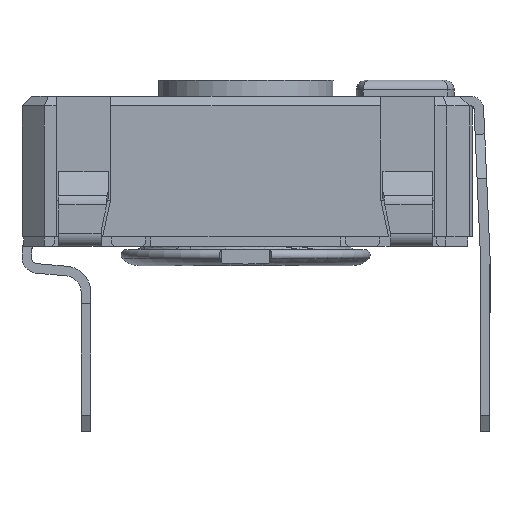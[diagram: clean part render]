
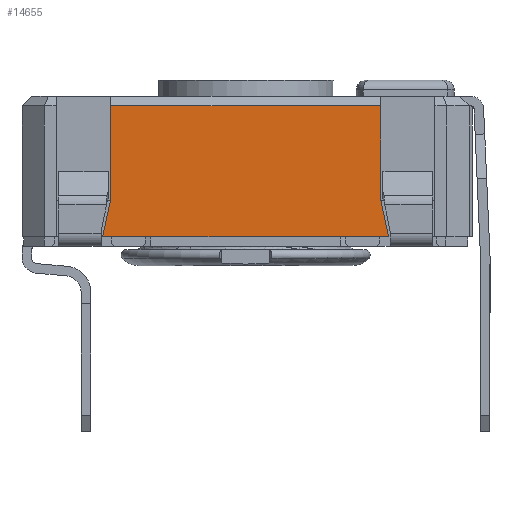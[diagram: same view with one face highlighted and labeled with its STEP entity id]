
A CAD part, left-side view. The second image highlights one B-rep face of the part: STEP entity #14655.
In plain terms, the highlighted planar face has unit normal (-1, 0, 0).
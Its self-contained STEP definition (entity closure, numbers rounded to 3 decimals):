
#1324=FACE_OUTER_BOUND('',#2079,.T.);
#2079=EDGE_LOOP('',(#12445,#12446,#12447,#12448,#12449,#12450));
#2963=LINE('',#22089,#4559);
#3295=LINE('',#23102,#4891);
#3299=LINE('',#23109,#4895);
#3656=LINE('',#23874,#5252);
#3661=LINE('',#23882,#5257);
#3662=LINE('',#23884,#5258);
#4559=VECTOR('',#17819,10.);
#4891=VECTOR('',#18585,10.);
#4895=VECTOR('',#18591,10.);
#5252=VECTOR('',#19336,10.);
#5257=VECTOR('',#19343,10.);
#5258=VECTOR('',#19346,10.);
#6078=VERTEX_POINT('',#22086);
#6079=VERTEX_POINT('',#22088);
#6402=VERTEX_POINT('',#23099);
#6403=VERTEX_POINT('',#23101);
#6405=VERTEX_POINT('',#23107);
#6605=VERTEX_POINT('',#23880);
#7743=EDGE_CURVE('',#6078,#6079,#2963,.T.);
#8187=EDGE_CURVE('',#6402,#6403,#3295,.T.);
#8191=EDGE_CURVE('',#6402,#6405,#3299,.T.);
#8572=EDGE_CURVE('',#6079,#6405,#3656,.T.);
#8577=EDGE_CURVE('',#6605,#6078,#3661,.T.);
#8578=EDGE_CURVE('',#6605,#6403,#3662,.T.);
#12445=ORIENTED_EDGE('',*,*,#8187,.F.);
#12446=ORIENTED_EDGE('',*,*,#8191,.T.);
#12447=ORIENTED_EDGE('',*,*,#8572,.F.);
#12448=ORIENTED_EDGE('',*,*,#7743,.F.);
#12449=ORIENTED_EDGE('',*,*,#8577,.F.);
#12450=ORIENTED_EDGE('',*,*,#8578,.T.);
#13229=PLANE('',#15748);
#14655=ADVANCED_FACE('',(#1324),#13229,.T.);
#15748=AXIS2_PLACEMENT_3D('',#23918,#19392,#19393);
#17819=DIRECTION('',(0.,1.,0.));
#18585=DIRECTION('',(0.,-1.,0.));
#18591=DIRECTION('',(0.,0.,-1.));
#19336=DIRECTION('',(0.,-0.208,0.978));
#19343=DIRECTION('',(0.,-0.208,-0.978));
#19346=DIRECTION('',(0.,0.,1.));
#19392=DIRECTION('center_axis',(-1.,0.,0.));
#19393=DIRECTION('ref_axis',(0.,0.,1.));
#22086=CARTESIAN_POINT('',(-7.,-4.425,-2.225));
#22088=CARTESIAN_POINT('',(-7.,4.525,-2.225));
#22089=CARTESIAN_POINT('',(-7.,-6.25,-2.225));
#23099=CARTESIAN_POINT('',(-7.,4.275,1.875));
#23101=CARTESIAN_POINT('',(-7.,-4.175,1.875));
#23102=CARTESIAN_POINT('',(-7.,-3.1,1.875));
#23107=CARTESIAN_POINT('',(-7.,4.275,-1.049));
#23109=CARTESIAN_POINT('',(-7.,4.275,-2.225));
#23874=CARTESIAN_POINT('',(-7.,4.525,-2.225));
#23880=CARTESIAN_POINT('',(-7.,-4.175,-1.049));
#23882=CARTESIAN_POINT('',(-7.,-4.175,-1.049));
#23884=CARTESIAN_POINT('',(-7.,-4.175,-2.225));
#23918=CARTESIAN_POINT('Origin',(-7.,-6.25,-2.225));
